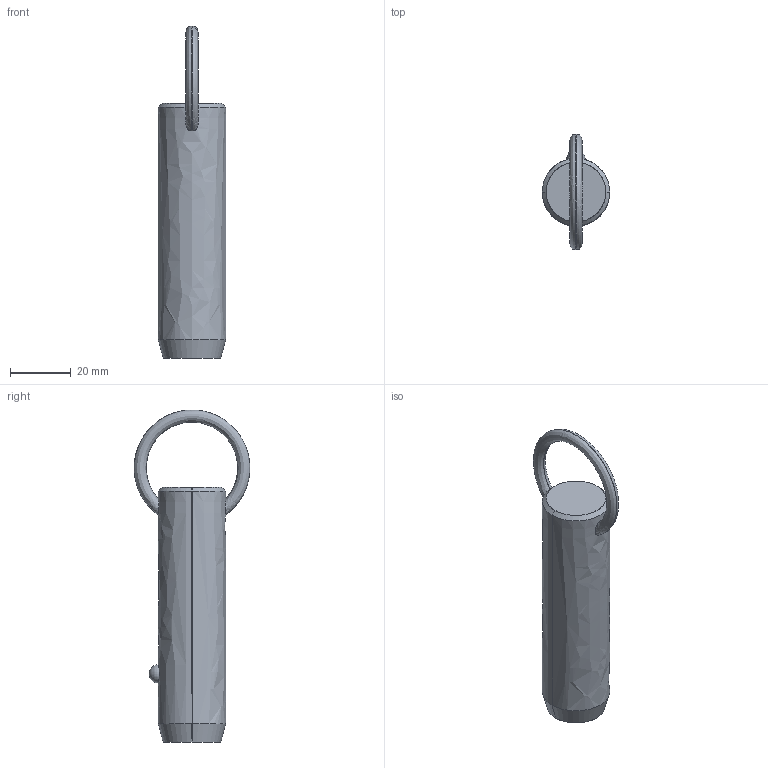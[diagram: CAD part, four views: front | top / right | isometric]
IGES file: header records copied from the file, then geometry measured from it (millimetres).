
Start section: SolidWorks IGES file using analytic representation for surfaces
Global section: file name: C:\Users\liam_\OneDrive\Documents\WORK\Work for WixRoyd\Job Files\J-00019 - Matt Davis CAD Checking\04. CAD Drawings\automotion20190605\P1250.2_v2\P1250.2_v2_20190729_IGES\P1250.087-180.igs; native system: SolidWorks 2017; preprocessor: SolidWorks 2017; author: liam_; date: 190730.000553; units: millimetre
Bounding box: 22.2 x 38.08 x 109.19 mm (x, y, z)
Surface area: 7488.3 mm2 (no closed solid volume)
Topology: 0 solids, 0 shells, 12 faces, 302 edges, 300 vertices
Faces by surface type: revolution 8, bspline 4
